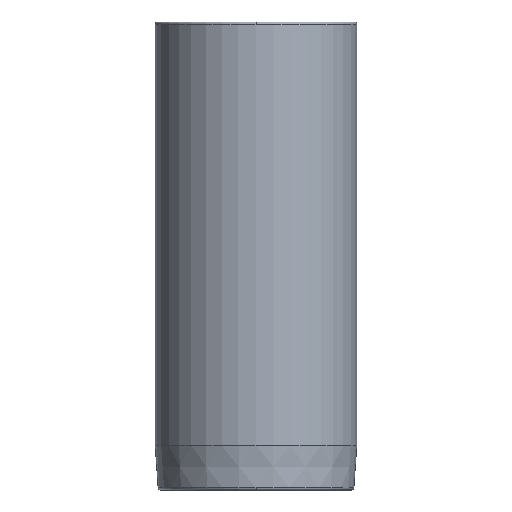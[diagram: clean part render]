
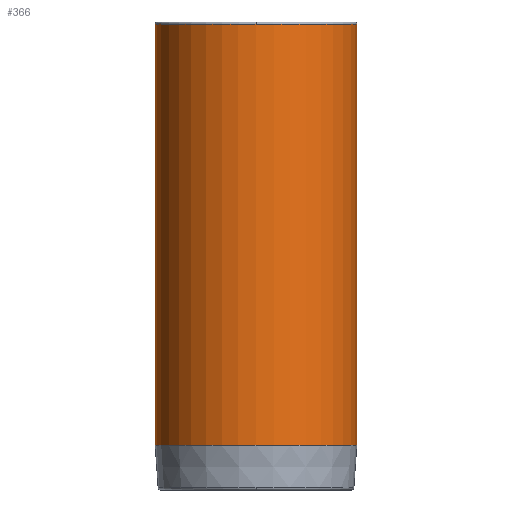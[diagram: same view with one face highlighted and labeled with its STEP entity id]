
A CAD part, front view. The second image highlights one B-rep face of the part: STEP entity #366.
In plain terms, the highlighted cylindrical face has radius 22.625 mm (diameter 45.25 mm), a partial arc.
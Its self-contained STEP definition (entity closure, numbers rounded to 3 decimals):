
#271=CARTESIAN_POINT('',(0.0,-22.625,53.5));
#272=VERTEX_POINT('',#271);
#298=CARTESIAN_POINT('',(-22.625,0.,53.5));
#299=VERTEX_POINT('',#298);
#307=CARTESIAN_POINT('',(0.0,0.,53.5));
#308=DIRECTION('',(0.0,0.0,1.0));
#309=DIRECTION('',(1.0,0.0,0.0));
#310=AXIS2_PLACEMENT_3D('',#307,#308,#309);
#311=CIRCLE('',#310,22.625);
#312=EDGE_CURVE('',#299,#272,#311,.T.);
#317=CARTESIAN_POINT('',(0.0,0.,6.267));
#318=DIRECTION('',(0.0,0.,1.0));
#319=DIRECTION('',(1.0,0.0,0.0));
#320=AXIS2_PLACEMENT_3D('',#317,#318,#319);
#321=CYLINDRICAL_SURFACE('',#320,22.625);
#322=CARTESIAN_POINT('',(22.625,0.,53.5));
#323=VERTEX_POINT('',#322);
#324=CARTESIAN_POINT('',(22.625,0.,-40.965));
#325=VERTEX_POINT('',#324);
#326=CARTESIAN_POINT('',(22.625,0.,53.5));
#327=DIRECTION('',(0.0,0.0,-1.0));
#328=VECTOR('',#327,94.465);
#329=LINE('',#326,#328);
#330=EDGE_CURVE('',#323,#325,#329,.T.);
#331=ORIENTED_EDGE('',*,*,#330,.F.);
#332=CARTESIAN_POINT('',(0.0,0.,53.5));
#333=DIRECTION('',(0.0,0.0,1.0));
#334=DIRECTION('',(1.0,0.0,0.0));
#335=AXIS2_PLACEMENT_3D('',#332,#333,#334);
#336=CIRCLE('',#335,22.625);
#337=EDGE_CURVE('',#272,#323,#336,.T.);
#338=ORIENTED_EDGE('',*,*,#337,.F.);
#339=ORIENTED_EDGE('',*,*,#312,.F.);
#340=CARTESIAN_POINT('',(-22.625,0.,-40.965));
#341=VERTEX_POINT('',#340);
#342=CARTESIAN_POINT('',(-22.625,0.,53.5));
#343=DIRECTION('',(0.0,0.0,-1.0));
#344=VECTOR('',#343,94.465);
#345=LINE('',#342,#344);
#346=EDGE_CURVE('',#299,#341,#345,.T.);
#347=ORIENTED_EDGE('',*,*,#346,.T.);
#348=CARTESIAN_POINT('',(0.0,-22.625,-40.965));
#349=VERTEX_POINT('',#348);
#350=CARTESIAN_POINT('',(0.0,0.,-40.965));
#351=DIRECTION('',(0.0,0.0,1.0));
#352=DIRECTION('',(1.0,0.0,0.0));
#353=AXIS2_PLACEMENT_3D('',#350,#351,#352);
#354=CIRCLE('',#353,22.625);
#355=EDGE_CURVE('',#341,#349,#354,.T.);
#356=ORIENTED_EDGE('',*,*,#355,.T.);
#357=CARTESIAN_POINT('',(0.0,0.,-40.965));
#358=DIRECTION('',(0.0,0.0,1.0));
#359=DIRECTION('',(1.0,0.0,0.0));
#360=AXIS2_PLACEMENT_3D('',#357,#358,#359);
#361=CIRCLE('',#360,22.625);
#362=EDGE_CURVE('',#349,#325,#361,.T.);
#363=ORIENTED_EDGE('',*,*,#362,.T.);
#364=EDGE_LOOP('',(#331,#338,#339,#347,#356,#363));
#365=FACE_OUTER_BOUND('',#364,.T.);
#366=ADVANCED_FACE('',(#365),#321,.T.);
